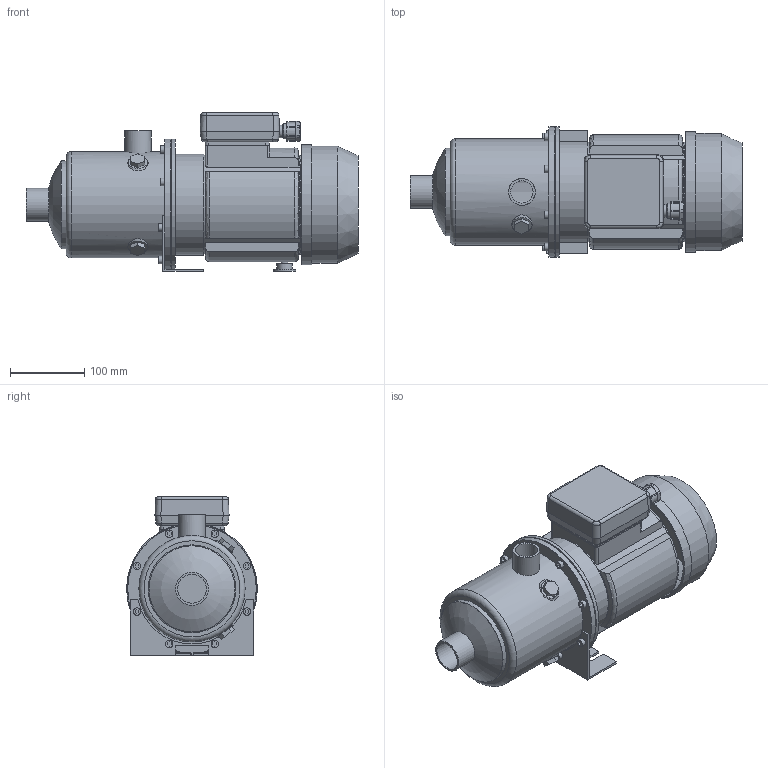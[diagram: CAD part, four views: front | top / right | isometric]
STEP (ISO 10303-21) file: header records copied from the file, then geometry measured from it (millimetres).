
FILE_DESCRIPTION(/* description */ ('Unknown'),/* implementation_level */ '2;1');
FILE_NAME(/* name */ 'MH 3 [5] T6 IE3',/* time_stamp */ '2026-07-10T15:08:26+02:00',/* author */ ('Unknown'),/* organization */ ('Unknown'),/* preprocessor_version */ 'ST-DEVELOPER v20',/* originating_system */ 'Solid Edge',/* authorisation */ 'Unknown');
FILE_SCHEMA (('AUTOMOTIVE_DESIGN {1 0 10303 214 3 1 1}'));
Length unit declared in the file: millimetre
Products named in the file (10): MH 3 [5] T6 IE3; Flangia motore Tonda M80; Corpo MH 3-5 [5]; Motore MEC 80 - T; carcassa MEC 80; Copriventola MEC 80; Ghiera PG13,5 cod. SAV.GHI.20; Basetta MEC 80-90-100 T; Piedino MEC 80 int.90; Staffa 3-5-9 int.90
Assembly tree (9 placements, depth 3):
  MH 3 [5] T6 IE3
    Flangia motore Tonda M80
    Corpo MH 3-5 [5]
    Motore MEC 80 - T
      carcassa MEC 80
      Copriventola MEC 80
      Ghiera PG13,5 cod. SAV.GHI.20
      Basetta MEC 80-90-100 T
    Piedino MEC 80 int.90
    Staffa 3-5-9 int.90
Bounding box: 448.1 x 176.5 x 214.5 mm (x, y, z)
Volume: 2329058.1 mm3; surface area: 582823.4 mm2
Topology: 8 solids, 8 shells, 316 faces, 750 edges, 497 vertices
Faces by surface type: plane 179, cylinder 100, cone 18, torus 9, bspline 8, sphere 2
Full cylindrical faces by diameter (mm): 7 x4, 10 x9, 13 x1, 17 x1, 19.73 x1, 20.4 x1, 21 x1, 30 x1, 30.291 x1, 36 x1, 38.952 x1, 44.5 x1, 116.1 x1, 118.5 x1, 125 x1, 130 x3, 134 x1, 136 x1, 141.1 x1, 143.5 x1, 153 x1, 157 x1, 158 x1, 162 x1, 173.5 x1, 174.1 x1, 176.5 x2
Entity records: 10385 total; most frequent: CARTESIAN_POINT 1889, DIRECTION 1485, ORIENTED_EDGE 1324, EDGE_CURVE 662, AXIS2_PLACEMENT_3D 551, VERTEX_POINT 468, EDGE_LOOP 432, FACE_BOUND 432
